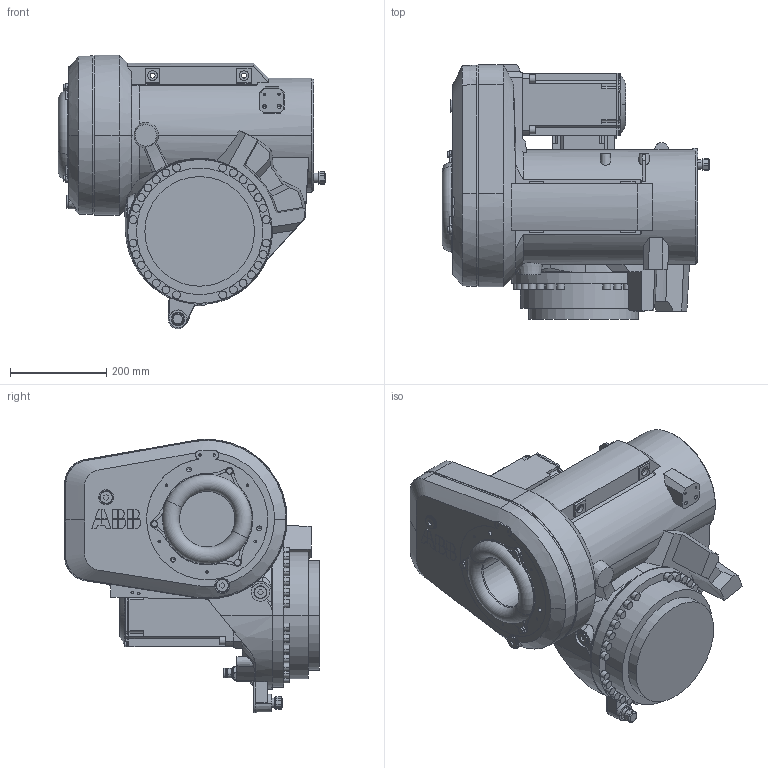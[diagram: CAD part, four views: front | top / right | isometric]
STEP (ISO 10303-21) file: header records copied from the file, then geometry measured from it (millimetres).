
FILE_DESCRIPTION (( 'STEP AP214' ), '1' );
FILE_NAME ('IRB5720_125kg-300_OmniCore_rev01_LINK03_CAD.step', '2025-07-08T10:11:05', ( '' ), ( '' ), 'SwSTEP 2.0', 'SolidWorks 2024', '' );
FILE_SCHEMA (( 'AUTOMOTIVE_DESIGN' ));
Length unit declared in the file: millimetre
Products named in the file (1): IRB5720_125kg-300_OmniCore_rev01_LINK03_CAD
Bounding box: 555.99 x 529 x 568.25 mm (x, y, z)
Volume: 47889579 mm3; surface area: 1470227.4 mm2
Topology: 1 solids, 4 shells, 1124 faces, 2926 edges, 1899 vertices
Faces by surface type: plane 583, cylinder 327, cone 177, bspline 28, torus 7, sphere 2
Entity records: 41723 total; most frequent: CARTESIAN_POINT 13719, ORIENTED_EDGE 5772, DIRECTION 5441, EDGE_CURVE 2886, AXIS2_PLACEMENT_3D 1964, VERTEX_POINT 1899, LINE 1513, VECTOR 1513
